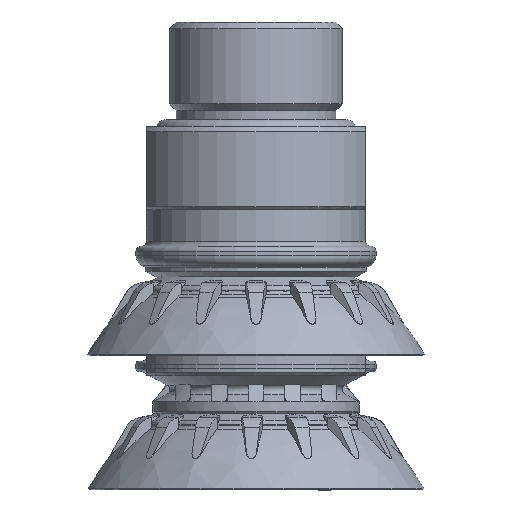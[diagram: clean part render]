
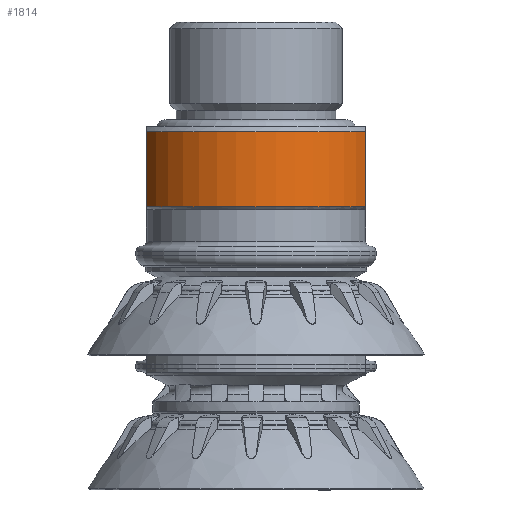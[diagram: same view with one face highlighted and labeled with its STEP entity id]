
A CAD part, left-side view. The second image highlights one B-rep face of the part: STEP entity #1814.
In plain terms, the highlighted cylindrical face has radius 11.5 mm (diameter 23 mm), a partial arc.
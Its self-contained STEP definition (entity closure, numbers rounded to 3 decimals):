
#1814 = ADVANCED_FACE( '', ( #3823 ), #3824, .T. );
#3823 = FACE_OUTER_BOUND( '', #5483, .T. );
#3824 = CYLINDRICAL_SURFACE( '', #5484, 11.5 );
#5483 = EDGE_LOOP( '', ( #10789, #10790, #10791, #10792 ) );
#5484 = AXIS2_PLACEMENT_3D( '', #10793, #10794, #10795 );
#10789 = ORIENTED_EDGE( '', *, *, #14791, .T. );
#10790 = ORIENTED_EDGE( '', *, *, #14784, .F. );
#10791 = ORIENTED_EDGE( '', *, *, #14792, .F. );
#10792 = ORIENTED_EDGE( '', *, *, #14793, .T. );
#10793 = CARTESIAN_POINT( '', ( 0., 0., 14.094 ) );
#10794 = DIRECTION( '', ( 0., 0., 1. ) );
#10795 = DIRECTION( '', ( -1., 0., 0. ) );
#14784 = EDGE_CURVE( '', #17008, #17009, #17010, .T. );
#14791 = EDGE_CURVE( '', #17021, #17009, #17022, .T. );
#14792 = EDGE_CURVE( '', #17023, #17008, #17024, .T. );
#14793 = EDGE_CURVE( '', #17023, #17021, #17025, .T. );
#17008 = VERTEX_POINT( '', #21864 );
#17009 = VERTEX_POINT( '', #21865 );
#17010 = LINE( '', #21866, #21867 );
#17021 = VERTEX_POINT( '', #21892 );
#17022 = CIRCLE( '', #21893, 11.5 );
#17023 = VERTEX_POINT( '', #21894 );
#17024 = CIRCLE( '', #21895, 11.5 );
#17025 = LINE( '', #21896, #21897 );
#21864 = CARTESIAN_POINT( '', ( -4.69, 10.5, -5.826 ) );
#21865 = CARTESIAN_POINT( '', ( -4.69, 10.5, 1.374 ) );
#21866 = CARTESIAN_POINT( '', ( -4.69, 10.5, -48.126 ) );
#21867 = VECTOR( '', #27876, 1000. );
#21892 = CARTESIAN_POINT( '', ( -4.69, -10.5, 1.374 ) );
#21893 = AXIS2_PLACEMENT_3D( '', #27879, #27880, #27881 );
#21894 = CARTESIAN_POINT( '', ( -4.69, -10.5, -5.826 ) );
#21895 = AXIS2_PLACEMENT_3D( '', #27882, #27883, #27884 );
#21896 = CARTESIAN_POINT( '', ( -4.69, -10.5, -48.126 ) );
#21897 = VECTOR( '', #27885, 1000. );
#27876 = DIRECTION( '', ( 0., 0., 1. ) );
#27879 = CARTESIAN_POINT( '', ( 0., 0., 1.374 ) );
#27880 = DIRECTION( '', ( 0., 0., -1. ) );
#27881 = DIRECTION( '', ( -1., 0., 0. ) );
#27882 = CARTESIAN_POINT( '', ( 0., 0., -5.826 ) );
#27883 = DIRECTION( '', ( 0., 0., -1. ) );
#27884 = DIRECTION( '', ( -1., 0., 0. ) );
#27885 = DIRECTION( '', ( 0., 0., 1. ) );
